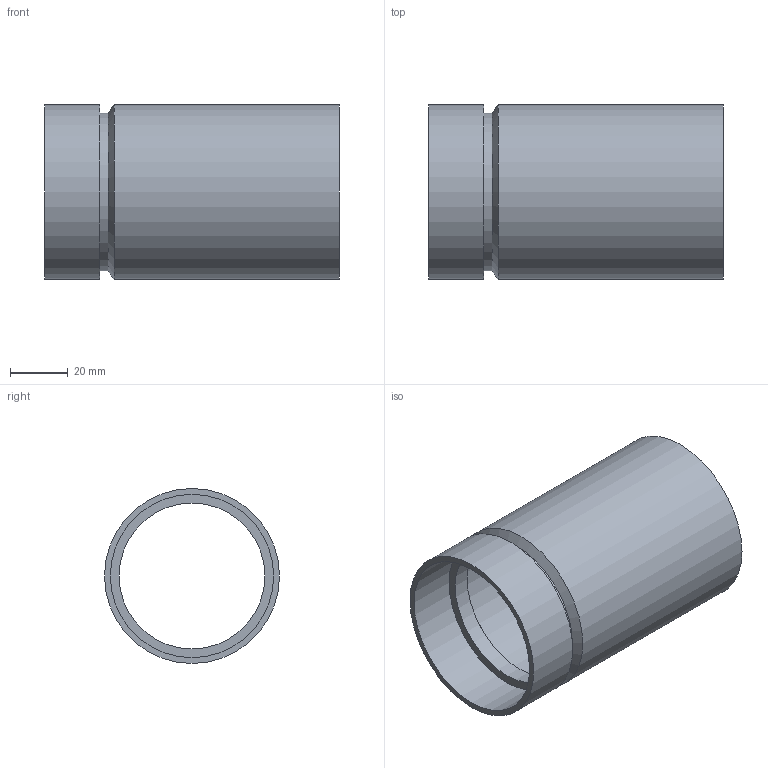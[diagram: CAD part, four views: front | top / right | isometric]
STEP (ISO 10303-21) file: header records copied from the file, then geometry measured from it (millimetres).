
FILE_DESCRIPTION(/* description */ ('VIC NIPPLE #40 VG x TE','CAx-IF Rec.Pracs.---Representation and Presentation of Product Manufacturing Information (PMI)---4.0---2014-10-13'),/* implementation_level */ '2;1');
FILE_NAME(/* name */ 'C:\Users\Vjadhav\Desktop\CAD for Inventor\Test for STEP\ST100\st100\ST100\STEP\Victaulic_SS-StrengThin 100_Adapter Nipple_No E440H\P641\Victaulic_SS-StrengThin 100_Adapter Nipple_No E440H (ST1xMPT)_2.stp',/* time_stamp */ '2021-06-23T12:16:49+06:00',/* author */ ('CONSTRUCTION PIPING SERVICES'),/* organization */ ('Victaulic'),/* preprocessor_version */ 'ST-DEVELOPER v17.2',/* originating_system */ 'Autodesk Inventor 2019',/* authorisation */ '');
FILE_SCHEMA (('AP242_MANAGED_MODEL_BASED_3D_ENGINEERING_MIM_LF { 1 0 10303 442 1 1 4 }'));
Length unit declared in the file: inch
Products named in the file (1): 440H-02.0
Bounding box: 101.6 x 60.33 x 60.33 mm (x, y, z)
Volume: 38738.1 mm3; surface area: 39346 mm2
Topology: 1 solids, 1 shells, 12 faces, 32 edges, 24 vertices
Faces by surface type: cylinder 6, plane 4, cone 2
Full cylindrical faces by diameter (mm): 50.317 x1, 54.331 x1, 56.312 x2, 60.325 x2
Entity records: 552 total; most frequent: DIRECTION 108, CARTESIAN_POINT 86, ORIENTED_EDGE 64, AXIS2_PLACEMENT_3D 50, EDGE_CURVE 32, CIRCLE 24, VERTEX_POINT 24, EDGE_LOOP 16
